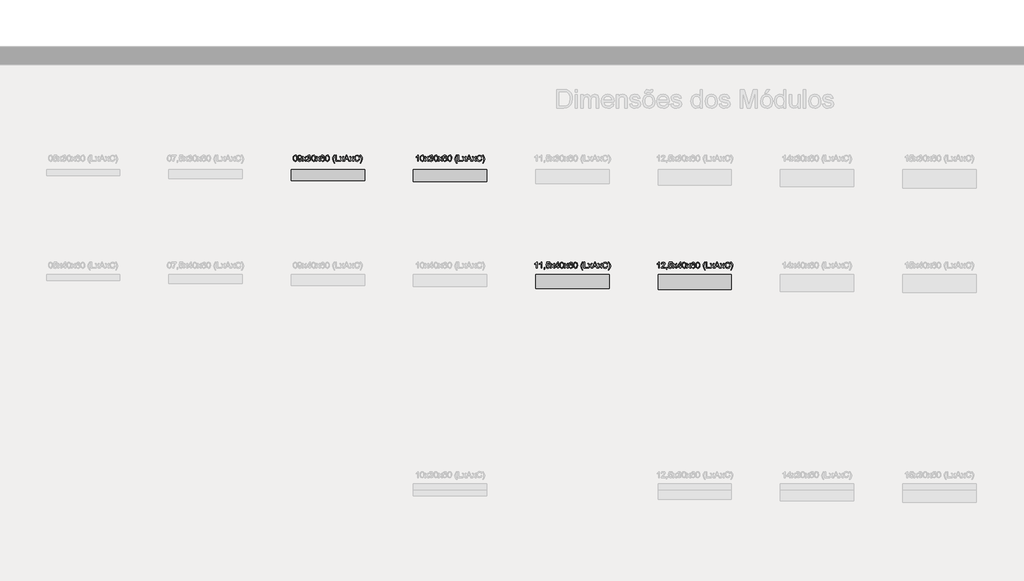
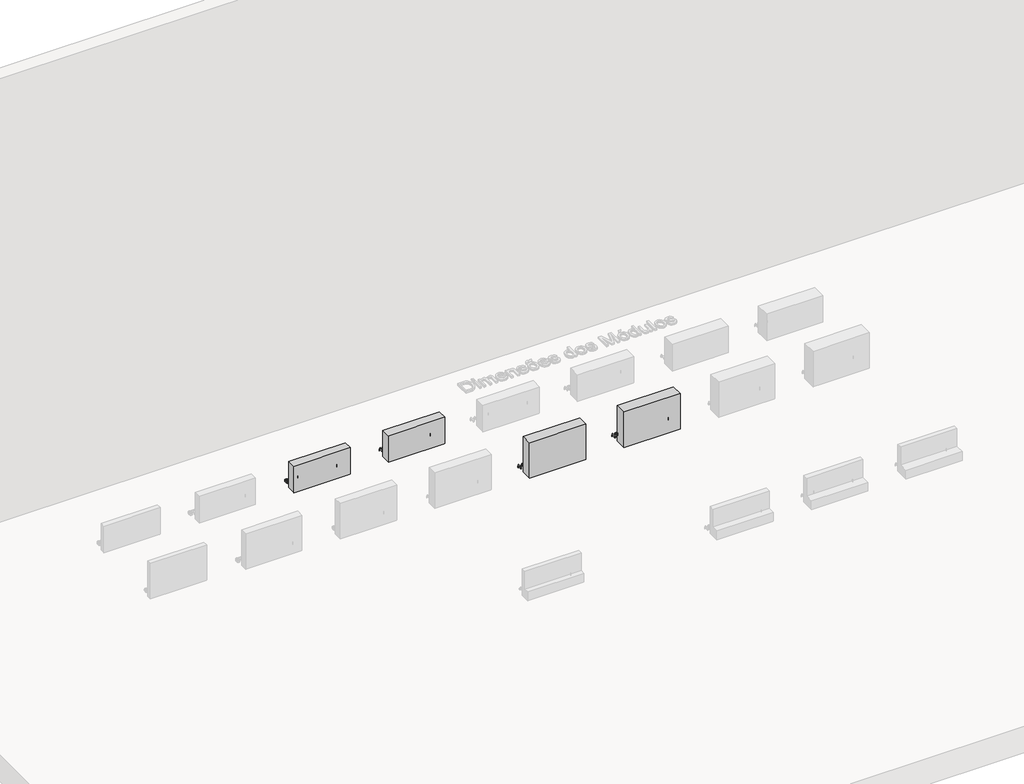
# One storey, part 19 of 26: 8 proxies.
"""IFC4 building model written with IfcOpenShell, lengths in millimetres."""

from ifc_helpers import new_model, si_unit, origin, origin_with_axes, place, context, project, spatial, polyline, outline, extrude, transform, mapped, element, save
from components import generic_models_1ec5af48, generic_models_086c547d, generic_models_9ac8ba65, generic_models_503ec5d7

model = new_model("IFC4")

# Units and contexts
model_context = context("Model", 3, world=origin())
ifc_project = project(units=[si_unit("LENGTHUNIT", "METRE", prefix="MILLI")], contexts=[model_context])

# Site, building, storey
site = spatial("IfcSite", under=ifc_project)
building = spatial("IfcBuilding", under=site)
storey = spatial("IfcBuildingStorey", under=building, Name="Catálogo Celucon", Elevation=0.0)

# Proxies
placement = place(None, origin())
element("IfcBuildingElementProxy", 1, Name="Dimensões", ObjectType="Dimensões", at=placement, inside=storey, context=model_context, shape_type="SweptSolid", body=[
    extrude(outline(polyline([(-11781.5709703, 1443.172917), (-11779.725429, 1457.6245481), (-11774.2439872, 1465.9570753), (-11765.0898569, 1468.6916648), (-11757.7567425, 1467.072984), (-11752.6922337, 1462.407014), (-11749.7491777, 1454.9757977), (-11748.6087435, 1443.172917), (-11750.4358908, 1428.7825997), (-11755.8989384, 1420.4316784), (-11765.0898569, 1417.6786948), (-11776.5677752, 1422.4611607), (-11780.3201715, 1430.9561691), (-11781.5709703, 1443.172917)]), holes=[polyline([(-11775.2924509, 1443.1851798), (-11772.349395, 1427.5931146), (-11765.0898569, 1423.9572142), (-11757.8303189, 1427.6053773), (-11754.8872629, 1443.1851798), (-11757.732217, 1458.5994354), (-11765.1634333, 1462.4131454), (-11772.2512931, 1459.0531565), (-11775.2924509, 1443.1851798)])]), origin_with_axes(), (0.0, 0.0, 1.0), 20.0),
    extrude(outline(polyline([(-11742.3302242, 1431.0205485), (-11736.0517048, 1431.8053634), (-11733.2312761, 1425.8150182), (-11727.8847245, 1423.9572142), (-11722.8018216, 1425.1528307), (-11719.3559936, 1428.3472726), (-11717.3019857, 1433.8041889), (-11716.3945435, 1441.0882524), (-11721.4529209, 1437.5565853), (-11728.3384456, 1435.729438), (-11738.8292138, 1440.1930729), (-11743.1150391, 1451.953034), (-11738.6207474, 1464.0931398), (-11727.357427, 1468.6916648), (-11718.4117631, 1466.0674399), (-11712.255871, 1458.5871726), (-11710.1528123, 1444.5340804), (-11712.2497397, 1429.2853717), (-11718.4853395, 1420.6462762), (-11728.1790301, 1417.6786948), (-11737.8298011, 1421.1797051), (-11742.3302242, 1431.0205485)]), holes=[polyline([(-11716.4313317, 1452.1001868), (-11719.1413957, 1459.629505), (-11726.3396201, 1462.4131454), (-11733.8934637, 1459.4149071), (-11736.8365197, 1451.6464657), (-11734.0528793, 1444.6873646), (-11726.5112984, 1442.0079574), (-11719.2701544, 1444.6873646), (-11716.4313317, 1452.1001868)])]), origin_with_axes(), (0.0, 0.0, 1.0), 20.0),
    extrude(outline(polyline([(-11707.0135526, 1418.4635097), (-11693.5981225, 1437.0047623), (-11706.2287377, 1455.3498111), (-11698.6748941, 1455.3498111), (-11692.5803157, 1446.5206432), (-11689.7353616, 1442.3513139), (-11687.2705522, 1445.7603537), (-11680.3298452, 1455.3498111), (-11672.7760016, 1455.3498111), (-11686.0442789, 1437.0047623), (-11673.2665109, 1418.4635097), (-11680.8203546, 1418.4635097), (-11688.5090883, 1429.6103342), (-11689.9193026, 1431.6459479), (-11699.459709, 1418.4635097), (-11707.0135526, 1418.4635097)])), origin_with_axes(), (0.0, 0.0, 1.0), 20.0),
    extrude(outline(polyline([(-11669.3424363, 1431.8053634), (-11663.0639169, 1432.5901783), (-11659.5996948, 1425.9805651), (-11653.1188403, 1423.9572142), (-11645.4914203, 1426.7408546), (-11642.6587289, 1433.6325106), (-11645.4668948, 1440.1256279), (-11652.6038055, 1442.6946705), (-11657.0061267, 1442.0079574), (-11656.3071509, 1448.2864768), (-11648.1769589, 1450.0155222), (-11645.0131737, 1455.5582776), (-11647.3063048, 1460.4695022), (-11653.2169422, 1462.4131454), (-11659.201156, 1460.4511081), (-11662.279102, 1454.5649962), (-11668.5576214, 1455.3498111), (-11663.4195362, 1465.1967858), (-11653.4376714, 1468.6916648), (-11645.8654337, 1466.9687508), (-11640.5679329, 1462.2598612), (-11638.7346543, 1455.9261595), (-11640.4759624, 1450.1381495), (-11645.6263104, 1445.9810829), (-11638.7837052, 1441.6891263), (-11636.3802095, 1433.522146), (-11641.1872009, 1422.2894825), (-11653.3395695, 1417.6786948), (-11664.3515039, 1421.6150321), (-11669.3424363, 1431.8053634)])), origin_with_axes(), (0.0, 0.0, 1.0), 20.0),
    extrude(outline(polyline([(-11630.8865051, 1443.172917), (-11629.0409637, 1457.6245481), (-11623.559522, 1465.9570753), (-11614.4053917, 1468.6916648), (-11607.0722773, 1467.072984), (-11602.0077685, 1462.407014), (-11599.0647125, 1454.9757977), (-11597.9242783, 1443.172917), (-11599.7514256, 1428.7825997), (-11605.2144732, 1420.4316784), (-11614.4053917, 1417.6786948), (-11625.8833099, 1422.4611607), (-11629.6357063, 1430.9561691), (-11630.8865051, 1443.172917)]), holes=[polyline([(-11624.6079857, 1443.1851798), (-11621.6649297, 1427.5931146), (-11614.4053917, 1423.9572142), (-11607.1458537, 1427.6053773), (-11604.2027977, 1443.1851798), (-11607.0477518, 1458.5994354), (-11614.4789681, 1462.4131454), (-11621.5668279, 1459.0531565), (-11624.6079857, 1443.1851798)])]), origin_with_axes(), (0.0, 0.0, 1.0), 20.0),
    extrude(outline(polyline([(-11594.7850186, 1418.4635097), (-11581.3695885, 1437.0047623), (-11594.0002037, 1455.3498111), (-11586.4463601, 1455.3498111), (-11580.3517817, 1446.5206432), (-11577.5068276, 1442.3513139), (-11575.0420182, 1445.7603537), (-11568.1013112, 1455.3498111), (-11560.5474676, 1455.3498111), (-11573.8157449, 1437.0047623), (-11561.0379769, 1418.4635097), (-11568.5918206, 1418.4635097), (-11576.2805543, 1429.6103342), (-11577.6907686, 1431.6459479), (-11587.231175, 1418.4635097), (-11594.7850186, 1418.4635097)])), origin_with_axes(), (0.0, 0.0, 1.0), 20.0),
    extrude(outline(polyline([(-11524.9364905, 1455.3498111), (-11531.2150099, 1454.5649962), (-11533.5939801, 1459.8011832), (-11539.8847622, 1462.4131454), (-11545.5501449, 1460.8925665), (-11549.8359702, 1455.1842642), (-11551.6201979, 1443.9945202), (-11546.0835738, 1449.0038467), (-11539.2225746, 1450.6409215), (-11528.5539968, 1446.1650239), (-11524.1516755, 1434.6012666), (-11526.2240775, 1425.9376456), (-11531.9262484, 1419.806279), (-11540.1545423, 1417.6786948), (-11552.9507044, 1423.319552), (-11556.661714, 1430.7875565), (-11557.8987172, 1441.9098555), (-11556.5252911, 1454.4147777), (-11552.4050128, 1462.9649684), (-11546.7794839, 1467.2599907), (-11539.4923547, 1468.6916648), (-11529.5718036, 1465.1477349), (-11524.9364905, 1455.3498111)]), holes=[polyline([(-11551.6201979, 1434.6993684), (-11550.167064, 1429.2608463), (-11546.304303, 1425.3122462), (-11540.6450517, 1423.9572142), (-11533.2444922, 1426.7653801), (-11530.4301949, 1434.3928001), (-11533.207704, 1441.6952577), (-11540.9025691, 1444.3624022), (-11548.4993323, 1441.6952577), (-11551.6201979, 1434.6993684)])]), origin_with_axes(), (0.0, 0.0, 1.0), 20.0),
    extrude(outline(polyline([(-11518.6579711, 1443.172917), (-11516.8124297, 1457.6245481), (-11511.330988, 1465.9570753), (-11502.1768577, 1468.6916648), (-11494.8437433, 1467.072984), (-11489.7792345, 1462.407014), (-11486.8361785, 1454.9757977), (-11485.6957443, 1443.172917), (-11487.5228916, 1428.7825997), (-11492.9859392, 1420.4316784), (-11502.1768577, 1417.6786948), (-11513.654776, 1422.4611607), (-11517.4071723, 1430.9561691), (-11518.6579711, 1443.172917)]), holes=[polyline([(-11512.3794517, 1443.1851798), (-11509.4363957, 1427.5931146), (-11502.1768577, 1423.9572142), (-11494.9173197, 1427.6053773), (-11491.9742637, 1443.1851798), (-11494.8192178, 1458.5994354), (-11502.2504341, 1462.4131454), (-11509.3382939, 1459.0531565), (-11512.3794517, 1443.1851798)])]), origin_with_axes(), (0.0, 0.0, 1.0), 20.0),
    extrude(outline(polyline([(-11446.4549982, 1404.3368411), (-11455.3700052, 1419.0643836), (-11459.0120369, 1436.5510411), (-11456.2897102, 1451.8181439), (-11446.4549982, 1468.6916648), (-11441.7461086, 1468.6916648), (-11447.6199578, 1458.7465882), (-11451.151625, 1449.1080799), (-11452.7335176, 1436.5142529), (-11449.9866653, 1420.4194156), (-11441.7461086, 1404.3368411), (-11446.4549982, 1404.3368411)])), origin_with_axes(), (0.0, 0.0, 1.0), 20.0),
    extrude(outline(polyline([(-11434.6827743, 1418.4635097), (-11434.6827743, 1468.6916648), (-11428.4042549, 1468.6916648), (-11428.4042549, 1424.7420291), (-11403.2901774, 1424.7420291), (-11403.2901774, 1418.4635097), (-11434.6827743, 1418.4635097)])), origin_with_axes(), (0.0, 0.0, 1.0), 20.0),
    extrude(outline(polyline([(-11366.7594953, 1418.4635097), (-11346.7099265, 1468.6916648), (-11341.3633749, 1468.6916648), (-11321.3138061, 1418.4635097), (-11327.9479448, 1418.4635097), (-11333.6991666, 1434.1598082), (-11354.3863975, 1434.1598082), (-11360.1253566, 1418.4635097), (-11366.7594953, 1418.4635097)]), holes=[polyline([(-11352.0810037, 1440.4383275), (-11335.9922977, 1440.4383275), (-11340.5172463, 1452.7868999), (-11344.0366507, 1462.4131454), (-11347.1636477, 1453.8660204), (-11352.0810037, 1440.4383275)])]), origin_with_axes(), (0.0, 0.0, 1.0), 20.0),
    extrude(outline(polyline([(-11400.9357326, 1418.4635097), (-11387.5203025, 1437.0047623), (-11400.1509177, 1455.3498111), (-11392.5970741, 1455.3498111), (-11386.5024957, 1446.5206432), (-11383.6575416, 1442.3513139), (-11381.1927322, 1445.7603537), (-11374.2520252, 1455.3498111), (-11366.6981816, 1455.3498111), (-11379.9664589, 1437.0047623), (-11367.1886909, 1418.4635097), (-11374.7425346, 1418.4635097), (-11382.4312683, 1429.6103342), (-11383.8414826, 1431.6459479), (-11393.381889, 1418.4635097), (-11400.9357326, 1418.4635097)])), origin_with_axes(), (0.0, 0.0, 1.0), 20.0),
    extrude(outline(polyline([(-11319.3149806, 1418.4635097), (-11305.8995505, 1437.0047623), (-11318.5301657, 1455.3498111), (-11310.9763221, 1455.3498111), (-11304.8817437, 1446.5206432), (-11302.0367896, 1442.3513139), (-11299.5719802, 1445.7603537), (-11292.6312733, 1455.3498111), (-11285.0774296, 1455.3498111), (-11298.3457069, 1437.0047623), (-11285.5679389, 1418.4635097), (-11293.1217826, 1418.4635097), (-11300.8105163, 1429.6103342), (-11302.2207306, 1431.6459479), (-11311.761137, 1418.4635097), (-11319.3149806, 1418.4635097)])), origin_with_axes(), (0.0, 0.0, 1.0), 20.0),
    extrude(outline(polyline([(-11243.972748, 1436.3180492), (-11237.6942286, 1434.6993684), (-11245.1377077, 1422.0380964), (-11258.2833576, 1417.6786948), (-11271.3492998, 1420.97737), (-11279.0135081, 1430.5300391), (-11281.6438643, 1443.957732), (-11278.6701515, 1457.606154), (-11270.214997, 1466.453716), (-11258.1484676, 1469.4764797), (-11245.5730347, 1465.5646678), (-11238.4790436, 1454.5527334), (-11244.7575629, 1453.05668), (-11249.9079109, 1460.7760705), (-11258.3937222, 1463.1979603), (-11268.2161715, 1460.5124218), (-11273.7650583, 1453.3019346), (-11275.3653449, 1443.9699947), (-11273.4707527, 1433.154264), (-11267.572378, 1426.2442139), (-11258.908757, 1423.9572142), (-11249.3009056, 1427.0719484), (-11243.972748, 1436.3180492)])), origin_with_axes(), (0.0, 0.0, 1.0), 20.0),
    extrude(outline(polyline([(-11228.2764496, 1404.3368411), (-11232.9853391, 1404.3368411), (-11224.7447824, 1420.4194156), (-11221.9979302, 1436.5142529), (-11223.5798228, 1448.9977153), (-11227.0747017, 1458.6484863), (-11232.9853391, 1468.6916648), (-11228.2764496, 1468.6916648), (-11218.4417376, 1451.8181439), (-11215.7194108, 1436.5510411), (-11219.3798366, 1419.0643836), (-11228.2764496, 1404.3368411)])), origin_with_axes(), (0.0, 0.0, 1.0), 20.0),
])
element("IfcBuildingElementProxy", 2, Name="Dimensões", ObjectType="Dimensões", at=placement, inside=storey, context=model_context, shape_type="SweptSolid", body=[
    extrude(outline(polyline([(-10758.0265226, 1418.4635097), (-10764.305042, 1418.4635097), (-10764.305042, 1457.606154), (-10770.2524676, 1453.3693797), (-10776.8620808, 1450.1994632), (-10776.8620808, 1456.134626), (-10767.6588995, 1462.0084752), (-10762.0732246, 1468.6916648), (-10758.0265226, 1468.6916648), (-10758.0265226, 1418.4635097)])), origin_with_axes(), (0.0, 0.0, 1.0), 20.0),
    extrude(outline(polyline([(-10743.1150391, 1443.172917), (-10741.2694977, 1457.6245481), (-10735.788056, 1465.9570753), (-10726.6339257, 1468.6916648), (-10719.3008113, 1467.072984), (-10714.2363025, 1462.407014), (-10711.2932465, 1454.9757977), (-10710.1528123, 1443.172917), (-10711.9799596, 1428.7825997), (-10717.4430072, 1420.4316784), (-10726.6339257, 1417.6786948), (-10738.1118439, 1422.4611607), (-10741.8642403, 1430.9561691), (-10743.1150391, 1443.172917)]), holes=[polyline([(-10736.8365197, 1443.1851798), (-10733.8934637, 1427.5931146), (-10726.6339257, 1423.9572142), (-10719.3743877, 1427.6053773), (-10716.4313317, 1443.1851798), (-10719.2762858, 1458.5994354), (-10726.7075021, 1462.4131454), (-10733.7953619, 1459.0531565), (-10736.8365197, 1443.1851798)])]), origin_with_axes(), (0.0, 0.0, 1.0), 20.0),
    extrude(outline(polyline([(-10707.0135526, 1418.4635097), (-10693.5981225, 1437.0047623), (-10706.2287377, 1455.3498111), (-10698.6748941, 1455.3498111), (-10692.5803157, 1446.5206432), (-10689.7353616, 1442.3513139), (-10687.2705522, 1445.7603537), (-10680.3298452, 1455.3498111), (-10672.7760016, 1455.3498111), (-10686.0442789, 1437.0047623), (-10673.2665109, 1418.4635097), (-10680.8203546, 1418.4635097), (-10688.5090883, 1429.6103342), (-10689.9193026, 1431.6459479), (-10699.459709, 1418.4635097), (-10707.0135526, 1418.4635097)])), origin_with_axes(), (0.0, 0.0, 1.0), 20.0),
    extrude(outline(polyline([(-10669.3424363, 1431.8053634), (-10663.0639169, 1432.5901783), (-10659.5996948, 1425.9805651), (-10653.1188403, 1423.9572142), (-10645.4914203, 1426.7408546), (-10642.6587289, 1433.6325106), (-10645.4668948, 1440.1256279), (-10652.6038055, 1442.6946705), (-10657.0061267, 1442.0079574), (-10656.3071509, 1448.2864768), (-10648.1769589, 1450.0155222), (-10645.0131737, 1455.5582776), (-10647.3063048, 1460.4695022), (-10653.2169422, 1462.4131454), (-10659.201156, 1460.4511081), (-10662.279102, 1454.5649962), (-10668.5576214, 1455.3498111), (-10663.4195362, 1465.1967858), (-10653.4376714, 1468.6916648), (-10645.8654337, 1466.9687508), (-10640.5679329, 1462.2598612), (-10638.7346543, 1455.9261595), (-10640.4759624, 1450.1381495), (-10645.6263104, 1445.9810829), (-10638.7837052, 1441.6891263), (-10636.3802095, 1433.522146), (-10641.1872009, 1422.2894825), (-10653.3395695, 1417.6786948), (-10664.3515039, 1421.6150321), (-10669.3424363, 1431.8053634)])), origin_with_axes(), (0.0, 0.0, 1.0), 20.0),
    extrude(outline(polyline([(-10630.8865051, 1443.172917), (-10629.0409637, 1457.6245481), (-10623.559522, 1465.9570753), (-10614.4053917, 1468.6916648), (-10607.0722773, 1467.072984), (-10602.0077685, 1462.407014), (-10599.0647125, 1454.9757977), (-10597.9242783, 1443.172917), (-10599.7514256, 1428.7825997), (-10605.2144732, 1420.4316784), (-10614.4053917, 1417.6786948), (-10625.8833099, 1422.4611607), (-10629.6357063, 1430.9561691), (-10630.8865051, 1443.172917)]), holes=[polyline([(-10624.6079857, 1443.1851798), (-10621.6649297, 1427.5931146), (-10614.4053917, 1423.9572142), (-10607.1458537, 1427.6053773), (-10604.2027977, 1443.1851798), (-10607.0477518, 1458.5994354), (-10614.4789681, 1462.4131454), (-10621.5668279, 1459.0531565), (-10624.6079857, 1443.1851798)])]), origin_with_axes(), (0.0, 0.0, 1.0), 20.0),
    extrude(outline(polyline([(-10594.7850186, 1418.4635097), (-10581.3695885, 1437.0047623), (-10594.0002037, 1455.3498111), (-10586.4463601, 1455.3498111), (-10580.3517817, 1446.5206432), (-10577.5068276, 1442.3513139), (-10575.0420182, 1445.7603537), (-10568.1013112, 1455.3498111), (-10560.5474676, 1455.3498111), (-10573.8157449, 1437.0047623), (-10561.0379769, 1418.4635097), (-10568.5918206, 1418.4635097), (-10576.2805543, 1429.6103342), (-10577.6907686, 1431.6459479), (-10587.231175, 1418.4635097), (-10594.7850186, 1418.4635097)])), origin_with_axes(), (0.0, 0.0, 1.0), 20.0),
    extrude(outline(polyline([(-10524.9364905, 1455.3498111), (-10531.2150099, 1454.5649962), (-10533.5939801, 1459.8011832), (-10539.8847622, 1462.4131454), (-10545.5501449, 1460.8925665), (-10549.8359702, 1455.1842642), (-10551.6201979, 1443.9945202), (-10546.0835738, 1449.0038467), (-10539.2225746, 1450.6409215), (-10528.5539968, 1446.1650239), (-10524.1516755, 1434.6012666), (-10526.2240775, 1425.9376456), (-10531.9262484, 1419.806279), (-10540.1545423, 1417.6786948), (-10552.9507044, 1423.319552), (-10556.661714, 1430.7875565), (-10557.8987172, 1441.9098555), (-10556.5252911, 1454.4147777), (-10552.4050128, 1462.9649684), (-10546.7794839, 1467.2599907), (-10539.4923547, 1468.6916648), (-10529.5718036, 1465.1477349), (-10524.9364905, 1455.3498111)]), holes=[polyline([(-10551.6201979, 1434.6993684), (-10550.167064, 1429.2608463), (-10546.304303, 1425.3122462), (-10540.6450517, 1423.9572142), (-10533.2444922, 1426.7653801), (-10530.4301949, 1434.3928001), (-10533.207704, 1441.6952577), (-10540.9025691, 1444.3624022), (-10548.4993323, 1441.6952577), (-10551.6201979, 1434.6993684)])]), origin_with_axes(), (0.0, 0.0, 1.0), 20.0),
    extrude(outline(polyline([(-10518.6579711, 1443.172917), (-10516.8124297, 1457.6245481), (-10511.330988, 1465.9570753), (-10502.1768577, 1468.6916648), (-10494.8437433, 1467.072984), (-10489.7792345, 1462.407014), (-10486.8361785, 1454.9757977), (-10485.6957443, 1443.172917), (-10487.5228916, 1428.7825997), (-10492.9859392, 1420.4316784), (-10502.1768577, 1417.6786948), (-10513.654776, 1422.4611607), (-10517.4071723, 1430.9561691), (-10518.6579711, 1443.172917)]), holes=[polyline([(-10512.3794517, 1443.1851798), (-10509.4363957, 1427.5931146), (-10502.1768577, 1423.9572142), (-10494.9173197, 1427.6053773), (-10491.9742637, 1443.1851798), (-10494.8192178, 1458.5994354), (-10502.2504341, 1462.4131454), (-10509.3382939, 1459.0531565), (-10512.3794517, 1443.1851798)])]), origin_with_axes(), (0.0, 0.0, 1.0), 20.0),
    extrude(outline(polyline([(-10446.4549982, 1404.3368411), (-10455.3700052, 1419.0643836), (-10459.0120369, 1436.5510411), (-10456.2897102, 1451.8181439), (-10446.4549982, 1468.6916648), (-10441.7461086, 1468.6916648), (-10447.6199578, 1458.7465882), (-10451.151625, 1449.1080799), (-10452.7335176, 1436.5142529), (-10449.9866653, 1420.4194156), (-10441.7461086, 1404.3368411), (-10446.4549982, 1404.3368411)])), origin_with_axes(), (0.0, 0.0, 1.0), 20.0),
    extrude(outline(polyline([(-10434.6827743, 1418.4635097), (-10434.6827743, 1468.6916648), (-10428.4042549, 1468.6916648), (-10428.4042549, 1424.7420291), (-10403.2901774, 1424.7420291), (-10403.2901774, 1418.4635097), (-10434.6827743, 1418.4635097)])), origin_with_axes(), (0.0, 0.0, 1.0), 20.0),
    extrude(outline(polyline([(-10366.7594953, 1418.4635097), (-10346.7099265, 1468.6916648), (-10341.3633749, 1468.6916648), (-10321.3138061, 1418.4635097), (-10327.9479448, 1418.4635097), (-10333.6991666, 1434.1598082), (-10354.3863975, 1434.1598082), (-10360.1253566, 1418.4635097), (-10366.7594953, 1418.4635097)]), holes=[polyline([(-10352.0810037, 1440.4383275), (-10335.9922977, 1440.4383275), (-10340.5172463, 1452.7868999), (-10344.0366507, 1462.4131454), (-10347.1636477, 1453.8660204), (-10352.0810037, 1440.4383275)])]), origin_with_axes(), (0.0, 0.0, 1.0), 20.0),
    extrude(outline(polyline([(-10400.9357326, 1418.4635097), (-10387.5203025, 1437.0047623), (-10400.1509177, 1455.3498111), (-10392.5970741, 1455.3498111), (-10386.5024957, 1446.5206432), (-10383.6575416, 1442.3513139), (-10381.1927322, 1445.7603537), (-10374.2520252, 1455.3498111), (-10366.6981816, 1455.3498111), (-10379.9664589, 1437.0047623), (-10367.1886909, 1418.4635097), (-10374.7425346, 1418.4635097), (-10382.4312683, 1429.6103342), (-10383.8414826, 1431.6459479), (-10393.381889, 1418.4635097), (-10400.9357326, 1418.4635097)])), origin_with_axes(), (0.0, 0.0, 1.0), 20.0),
    extrude(outline(polyline([(-10319.3149806, 1418.4635097), (-10305.8995505, 1437.0047623), (-10318.5301657, 1455.3498111), (-10310.9763221, 1455.3498111), (-10304.8817437, 1446.5206432), (-10302.0367896, 1442.3513139), (-10299.5719802, 1445.7603537), (-10292.6312733, 1455.3498111), (-10285.0774296, 1455.3498111), (-10298.3457069, 1437.0047623), (-10285.5679389, 1418.4635097), (-10293.1217826, 1418.4635097), (-10300.8105163, 1429.6103342), (-10302.2207306, 1431.6459479), (-10311.761137, 1418.4635097), (-10319.3149806, 1418.4635097)])), origin_with_axes(), (0.0, 0.0, 1.0), 20.0),
    extrude(outline(polyline([(-10243.972748, 1436.3180492), (-10237.6942286, 1434.6993684), (-10245.1377077, 1422.0380964), (-10258.2833576, 1417.6786948), (-10271.3492998, 1420.97737), (-10279.0135081, 1430.5300391), (-10281.6438643, 1443.957732), (-10278.6701515, 1457.606154), (-10270.214997, 1466.453716), (-10258.1484676, 1469.4764797), (-10245.5730347, 1465.5646678), (-10238.4790436, 1454.5527334), (-10244.7575629, 1453.05668), (-10249.9079109, 1460.7760705), (-10258.3937222, 1463.1979603), (-10268.2161715, 1460.5124218), (-10273.7650583, 1453.3019346), (-10275.3653449, 1443.9699947), (-10273.4707527, 1433.154264), (-10267.572378, 1426.2442139), (-10258.908757, 1423.9572142), (-10249.3009056, 1427.0719484), (-10243.972748, 1436.3180492)])), origin_with_axes(), (0.0, 0.0, 1.0), 20.0),
    extrude(outline(polyline([(-10228.2764496, 1404.3368411), (-10232.9853391, 1404.3368411), (-10224.7447824, 1420.4194156), (-10221.9979302, 1436.5142529), (-10223.5798228, 1448.9977153), (-10227.0747017, 1458.6484863), (-10232.9853391, 1468.6916648), (-10228.2764496, 1468.6916648), (-10218.4417376, 1451.8181439), (-10215.7194108, 1436.5510411), (-10219.3798366, 1419.0643836), (-10228.2764496, 1404.3368411)])), origin_with_axes(), (0.0, 0.0, 1.0), 20.0),
])
element("IfcBuildingElementProxy", 3, Name="Dimensões", ObjectType="Dimensões", at=placement, inside=storey, context=model_context, shape_type="SweptSolid", body=[
    extrude(outline(polyline([(-9787.0646748, 543.1811307), (-9793.3431942, 543.1811307), (-9793.3431942, 582.323775), (-9799.2906197, 578.0870007), (-9805.9002329, 574.9170841), (-9805.9002329, 580.852247), (-9796.6970517, 586.7260962), (-9791.1113767, 593.4092858), (-9787.0646748, 593.4092858), (-9787.0646748, 543.1811307)])), origin_with_axes(), (0.0, 0.0, 1.0), 20.0),
    extrude(outline(polyline([(-9748.6087435, 543.1811307), (-9754.8872629, 543.1811307), (-9754.8872629, 582.323775), (-9760.8346885, 578.0870007), (-9767.4443017, 574.9170841), (-9767.4443017, 580.852247), (-9758.2411204, 586.7260962), (-9752.6554455, 593.4092858), (-9748.6087435, 593.4092858), (-9748.6087435, 543.1811307)])), origin_with_axes(), (0.0, 0.0, 1.0), 20.0),
    extrude(outline(polyline([(-9730.5580003, 543.1811307), (-9730.5580003, 549.4596501), (-9724.2794809, 549.4596501), (-9724.2794809, 543.1811307), (-9725.4076524, 536.7615899), (-9728.9883705, 532.9785367), (-9730.5580003, 535.3329815), (-9728.2526065, 538.0430455), (-9727.4310034, 543.1811307), (-9730.5580003, 543.1811307)])), origin_with_axes(), (0.0, 0.0, 1.0), 20.0),
    extrude(outline(polyline([(-9714.0768869, 556.5229844), (-9707.7983675, 557.3077993), (-9704.6345824, 550.8392076), (-9698.0740201, 548.6748351), (-9690.2013454, 551.6853361), (-9687.3931795, 559.6745068), (-9690.0235358, 567.1302486), (-9697.9759183, 569.8648381), (-9703.4880168, 568.7734548), (-9707.0135526, 565.9407635), (-9713.292072, 566.7255784), (-9707.7983675, 592.6244708), (-9683.4691049, 592.6244708), (-9683.4691049, 586.3459515), (-9702.721596, 586.3459515), (-9705.4071346, 572.5135884), (-9696.2223474, 576.1433575), (-9685.4863245, 571.6429344), (-9681.1146602, 560.0669143), (-9685.0509975, 548.4173178), (-9690.7041175, 543.9015663), (-9698.0985456, 542.3963158), (-9709.177925, 546.2652081), (-9714.0768869, 556.5229844)])), origin_with_axes(), (0.0, 0.0, 1.0), 20.0),
    extrude(outline(polyline([(-9677.9754005, 543.1811307), (-9664.5599704, 561.7223832), (-9677.1905855, 580.0674321), (-9669.6367419, 580.0674321), (-9663.5421635, 571.2382642), (-9660.6972094, 567.0689349), (-9658.2324001, 570.4779747), (-9651.2916931, 580.0674321), (-9643.7378494, 580.0674321), (-9657.0061267, 561.7223832), (-9644.2283588, 543.1811307), (-9651.7822024, 543.1811307), (-9659.4709361, 554.3279551), (-9660.8811504, 556.3635688), (-9670.4215568, 543.1811307), (-9677.9754005, 543.1811307)])), origin_with_axes(), (0.0, 0.0, 1.0), 20.0),
    extrude(outline(polyline([(-9619.8990962, 543.1811307), (-9619.8990962, 554.9533545), (-9642.6587289, 554.9533545), (-9642.6587289, 561.2318739), (-9618.3294663, 592.6244708), (-9613.6205768, 592.6244708), (-9613.6205768, 561.2318739), (-9607.3420574, 561.2318739), (-9607.3420574, 554.9533545), (-9613.6205768, 554.9533545), (-9613.6205768, 543.1811307), (-9619.8990962, 543.1811307)]), holes=[polyline([(-9619.8990962, 561.2318739), (-9619.8990962, 580.6315178), (-9634.933207, 561.2318739), (-9619.8990962, 561.2318739)])]), origin_with_axes(), (0.0, 0.0, 1.0), 20.0),
    extrude(outline(polyline([(-9601.8483529, 567.890538), (-9600.0028116, 582.3421691), (-9594.5213699, 590.6746963), (-9585.3672395, 593.4092858), (-9578.0341251, 591.790605), (-9572.9696163, 587.124635), (-9570.0265603, 579.6934187), (-9568.8861262, 567.890538), (-9570.7132734, 553.5002207), (-9576.176321, 545.1492994), (-9585.3672395, 542.3963158), (-9596.8451578, 547.1787817), (-9600.5975541, 555.6737901), (-9601.8483529, 567.890538)]), holes=[polyline([(-9595.5698335, 567.9028008), (-9592.6267776, 552.3107355), (-9585.3672395, 548.6748351), (-9578.1077015, 552.3229983), (-9575.1646455, 567.9028008), (-9578.0095996, 583.3170564), (-9585.4408159, 587.1307664), (-9592.5286757, 583.7707775), (-9595.5698335, 567.9028008)])]), origin_with_axes(), (0.0, 0.0, 1.0), 20.0),
    extrude(outline(polyline([(-9565.7468665, 543.1811307), (-9552.3314364, 561.7223832), (-9564.9620515, 580.0674321), (-9557.4082079, 580.0674321), (-9551.3136295, 571.2382642), (-9548.4686754, 567.0689349), (-9546.0038661, 570.4779747), (-9539.0631591, 580.0674321), (-9531.5093155, 580.0674321), (-9544.7775927, 561.7223832), (-9531.9998248, 543.1811307), (-9539.5536684, 543.1811307), (-9547.2424021, 554.3279551), (-9548.6526164, 556.3635688), (-9558.1930228, 543.1811307), (-9565.7468665, 543.1811307)])), origin_with_axes(), (0.0, 0.0, 1.0), 20.0),
    extrude(outline(polyline([(-9495.8983383, 580.0674321), (-9502.1768577, 579.2826171), (-9504.5558279, 584.5188042), (-9510.8466101, 587.1307664), (-9516.5119928, 585.6101875), (-9520.797818, 579.9018852), (-9522.5820457, 568.7121412), (-9517.0454217, 573.7214677), (-9510.1844225, 575.3585425), (-9499.5158446, 570.8826449), (-9495.1135234, 559.3188875), (-9497.1859253, 550.6552666), (-9502.8880962, 544.5239), (-9511.1163902, 542.3963158), (-9523.9125523, 548.037173), (-9527.6235619, 555.5051775), (-9528.8605651, 566.6274765), (-9527.487139, 579.1323987), (-9523.3668606, 587.6825894), (-9517.7413318, 591.9776117), (-9510.4542026, 593.4092858), (-9500.5336515, 589.8653559), (-9495.8983383, 580.0674321)]), holes=[polyline([(-9522.5820457, 559.4169894), (-9521.1289118, 553.9784672), (-9517.2661509, 550.0298672), (-9511.6068995, 548.6748351), (-9504.20634, 551.483001), (-9501.3920428, 559.1104211), (-9504.1695518, 566.4128787), (-9511.8644169, 569.0800231), (-9519.4611801, 566.4128787), (-9522.5820457, 559.4169894)])]), origin_with_axes(), (0.0, 0.0, 1.0), 20.0),
    extrude(outline(polyline([(-9489.6198189, 567.890538), (-9487.7742776, 582.3421691), (-9482.2928359, 590.6746963), (-9473.1387056, 593.4092858), (-9465.8055911, 591.790605), (-9460.7410823, 587.124635), (-9457.7980264, 579.6934187), (-9456.6575922, 567.890538), (-9458.4847394, 553.5002207), (-9463.947787, 545.1492994), (-9473.1387056, 542.3963158), (-9484.6166238, 547.1787817), (-9488.3690202, 555.6737901), (-9489.6198189, 567.890538)]), holes=[polyline([(-9483.3412996, 567.9028008), (-9480.3982436, 552.3107355), (-9473.1387056, 548.6748351), (-9465.8791675, 552.3229983), (-9462.9361116, 567.9028008), (-9465.7810656, 583.3170564), (-9473.212282, 587.1307664), (-9480.3001417, 583.7707775), (-9483.3412996, 567.9028008)])]), origin_with_axes(), (0.0, 0.0, 1.0), 20.0),
    extrude(outline(polyline([(-9417.416846, 529.0544621), (-9426.331853, 543.7820046), (-9429.9738848, 561.2686621), (-9427.251558, 576.5357649), (-9417.416846, 593.4092858), (-9412.7079565, 593.4092858), (-9418.5818057, 583.4642092), (-9422.1134728, 573.8257009), (-9423.6953654, 561.2318739), (-9420.9485132, 545.1370366), (-9412.7079565, 529.0544621), (-9417.416846, 529.0544621)])), origin_with_axes(), (0.0, 0.0, 1.0), 20.0),
    extrude(outline(polyline([(-9405.6446222, 543.1811307), (-9405.6446222, 593.4092858), (-9399.3661028, 593.4092858), (-9399.3661028, 549.4596501), (-9374.2520252, 549.4596501), (-9374.2520252, 543.1811307), (-9405.6446222, 543.1811307)])), origin_with_axes(), (0.0, 0.0, 1.0), 20.0),
    extrude(outline(polyline([(-9337.7213431, 543.1811307), (-9317.6717744, 593.4092858), (-9312.3252227, 593.4092858), (-9292.275654, 543.1811307), (-9298.9097926, 543.1811307), (-9304.6610145, 558.8774291), (-9325.3482454, 558.8774291), (-9331.0872045, 543.1811307), (-9337.7213431, 543.1811307)]), holes=[polyline([(-9323.0428515, 565.1559485), (-9306.9541456, 565.1559485), (-9311.4790941, 577.5045208), (-9314.9984986, 587.1307664), (-9318.1254955, 578.5836414), (-9323.0428515, 565.1559485)])]), origin_with_axes(), (0.0, 0.0, 1.0), 20.0),
    extrude(outline(polyline([(-9371.8975805, 543.1811307), (-9358.4821504, 561.7223832), (-9371.1127656, 580.0674321), (-9363.5589219, 580.0674321), (-9357.4643435, 571.2382642), (-9354.6193894, 567.0689349), (-9352.1545801, 570.4779747), (-9345.2138731, 580.0674321), (-9337.6600295, 580.0674321), (-9350.9283068, 561.7223832), (-9338.1505388, 543.1811307), (-9345.7043824, 543.1811307), (-9353.3931161, 554.3279551), (-9354.8033304, 556.3635688), (-9364.3437368, 543.1811307), (-9371.8975805, 543.1811307)])), origin_with_axes(), (0.0, 0.0, 1.0), 20.0),
    extrude(outline(polyline([(-9290.2768285, 543.1811307), (-9276.8613984, 561.7223832), (-9289.4920136, 580.0674321), (-9281.9381699, 580.0674321), (-9275.8435915, 571.2382642), (-9272.9986374, 567.0689349), (-9270.5338281, 570.4779747), (-9263.5931211, 580.0674321), (-9256.0392775, 580.0674321), (-9269.3075548, 561.7223832), (-9256.5297868, 543.1811307), (-9264.0836304, 543.1811307), (-9271.7723641, 554.3279551), (-9273.1825784, 556.3635688), (-9282.7229848, 543.1811307), (-9290.2768285, 543.1811307)])), origin_with_axes(), (0.0, 0.0, 1.0), 20.0),
    extrude(outline(polyline([(-9214.9345959, 561.0356702), (-9208.6560765, 559.4169894), (-9216.0995555, 546.7557174), (-9229.2452055, 542.3963158), (-9242.3111477, 545.694991), (-9249.9753559, 555.2476601), (-9252.6057122, 568.675353), (-9249.6319994, 582.323775), (-9241.1768449, 591.171337), (-9229.1103154, 594.1941007), (-9216.5348825, 590.2822888), (-9209.4408914, 579.2703544), (-9215.7194108, 577.774301), (-9220.8697587, 585.4936915), (-9229.3555701, 587.9155813), (-9239.1780194, 585.2300427), (-9244.7269061, 578.0195556), (-9246.3271928, 568.6876157), (-9244.4326005, 557.871885), (-9238.5342259, 550.9618349), (-9229.8706049, 548.6748351), (-9220.2627534, 551.7895694), (-9214.9345959, 561.0356702)])), origin_with_axes(), (0.0, 0.0, 1.0), 20.0),
    extrude(outline(polyline([(-9199.2382974, 529.0544621), (-9203.9471869, 529.0544621), (-9195.7066303, 545.1370366), (-9192.959778, 561.2318739), (-9194.5416706, 573.7153363), (-9198.0365496, 583.3661073), (-9203.9471869, 593.4092858), (-9199.2382974, 593.4092858), (-9189.4035854, 576.5357649), (-9186.6812586, 561.2686621), (-9190.3416845, 543.7820046), (-9199.2382974, 529.0544621)])), origin_with_axes(), (0.0, 0.0, 1.0), 20.0),
])
element("IfcBuildingElementProxy", 4, Name="Dimensões", ObjectType="Dimensões", at=placement, inside=storey, context=model_context, shape_type="SweptSolid", body=[
    extrude(outline(polyline([(-8787.0646748, 543.1811307), (-8793.3431942, 543.1811307), (-8793.3431942, 582.323775), (-8799.2906197, 578.0870007), (-8805.9002329, 574.9170841), (-8805.9002329, 580.852247), (-8796.6970517, 586.7260962), (-8791.1113767, 593.4092858), (-8787.0646748, 593.4092858), (-8787.0646748, 543.1811307)])), origin_with_axes(), (0.0, 0.0, 1.0), 20.0),
    extrude(outline(polyline([(-8739.9757794, 549.4596501), (-8739.9757794, 543.1811307), (-8772.9380062, 543.1811307), (-8772.2635558, 547.5098755), (-8768.4498458, 554.174671), (-8760.5894338, 561.4526031), (-8749.7491777, 571.9127145), (-8747.0391137, 579.0250998), (-8749.5958936, 584.782453), (-8756.2729518, 587.1307664), (-8763.2320528, 584.8376353), (-8765.8746718, 578.4978022), (-8772.1531912, 579.2826171), (-8767.3400685, 589.7917795), (-8756.1380617, 593.4092858), (-8744.8992668, 589.3871093), (-8740.7605943, 579.4052445), (-8741.876503, 573.4516875), (-8745.5859798, 567.2957955), (-8754.5806946, 558.6934882), (-8761.8034444, 552.6540921), (-8764.6361358, 549.4596501), (-8739.9757794, 549.4596501)])), origin_with_axes(), (0.0, 0.0, 1.0), 20.0),
    extrude(outline(polyline([(-8730.5580003, 543.1811307), (-8730.5580003, 549.4596501), (-8724.2794809, 549.4596501), (-8724.2794809, 543.1811307), (-8725.4076524, 536.7615899), (-8728.9883705, 532.9785367), (-8730.5580003, 535.3329815), (-8728.2526065, 538.0430455), (-8727.4310034, 543.1811307), (-8730.5580003, 543.1811307)])), origin_with_axes(), (0.0, 0.0, 1.0), 20.0),
    extrude(outline(polyline([(-8714.0768869, 556.5229844), (-8707.7983675, 557.3077993), (-8704.6345824, 550.8392076), (-8698.0740201, 548.6748351), (-8690.2013454, 551.6853361), (-8687.3931795, 559.6745068), (-8690.0235358, 567.1302486), (-8697.9759183, 569.8648381), (-8703.4880168, 568.7734548), (-8707.0135526, 565.9407635), (-8713.292072, 566.7255784), (-8707.7983675, 592.6244708), (-8683.4691049, 592.6244708), (-8683.4691049, 586.3459515), (-8702.721596, 586.3459515), (-8705.4071346, 572.5135884), (-8696.2223474, 576.1433575), (-8685.4863245, 571.6429344), (-8681.1146602, 560.0669143), (-8685.0509975, 548.4173178), (-8690.7041175, 543.9015663), (-8698.0985456, 542.3963158), (-8709.177925, 546.2652081), (-8714.0768869, 556.5229844)])), origin_with_axes(), (0.0, 0.0, 1.0), 20.0),
    extrude(outline(polyline([(-8677.9754005, 543.1811307), (-8664.5599704, 561.7223832), (-8677.1905855, 580.0674321), (-8669.6367419, 580.0674321), (-8663.5421635, 571.2382642), (-8660.6972094, 567.0689349), (-8658.2324001, 570.4779747), (-8651.2916931, 580.0674321), (-8643.7378494, 580.0674321), (-8657.0061267, 561.7223832), (-8644.2283588, 543.1811307), (-8651.7822024, 543.1811307), (-8659.4709361, 554.3279551), (-8660.8811504, 556.3635688), (-8670.4215568, 543.1811307), (-8677.9754005, 543.1811307)])), origin_with_axes(), (0.0, 0.0, 1.0), 20.0),
    extrude(outline(polyline([(-8619.8990962, 543.1811307), (-8619.8990962, 554.9533545), (-8642.6587289, 554.9533545), (-8642.6587289, 561.2318739), (-8618.3294663, 592.6244708), (-8613.6205768, 592.6244708), (-8613.6205768, 561.2318739), (-8607.3420574, 561.2318739), (-8607.3420574, 554.9533545), (-8613.6205768, 554.9533545), (-8613.6205768, 543.1811307), (-8619.8990962, 543.1811307)]), holes=[polyline([(-8619.8990962, 561.2318739), (-8619.8990962, 580.6315178), (-8634.933207, 561.2318739), (-8619.8990962, 561.2318739)])]), origin_with_axes(), (0.0, 0.0, 1.0), 20.0),
    extrude(outline(polyline([(-8601.8483529, 567.890538), (-8600.0028116, 582.3421691), (-8594.5213699, 590.6746963), (-8585.3672395, 593.4092858), (-8578.0341251, 591.790605), (-8572.9696163, 587.124635), (-8570.0265603, 579.6934187), (-8568.8861262, 567.890538), (-8570.7132734, 553.5002207), (-8576.176321, 545.1492994), (-8585.3672395, 542.3963158), (-8596.8451578, 547.1787817), (-8600.5975541, 555.6737901), (-8601.8483529, 567.890538)]), holes=[polyline([(-8595.5698335, 567.9028008), (-8592.6267776, 552.3107355), (-8585.3672395, 548.6748351), (-8578.1077015, 552.3229983), (-8575.1646455, 567.9028008), (-8578.0095996, 583.3170564), (-8585.4408159, 587.1307664), (-8592.5286757, 583.7707775), (-8595.5698335, 567.9028008)])]), origin_with_axes(), (0.0, 0.0, 1.0), 20.0),
    extrude(outline(polyline([(-8565.7468665, 543.1811307), (-8552.3314364, 561.7223832), (-8564.9620515, 580.0674321), (-8557.4082079, 580.0674321), (-8551.3136295, 571.2382642), (-8548.4686754, 567.0689349), (-8546.0038661, 570.4779747), (-8539.0631591, 580.0674321), (-8531.5093155, 580.0674321), (-8544.7775927, 561.7223832), (-8531.9998248, 543.1811307), (-8539.5536684, 543.1811307), (-8547.2424021, 554.3279551), (-8548.6526164, 556.3635688), (-8558.1930228, 543.1811307), (-8565.7468665, 543.1811307)])), origin_with_axes(), (0.0, 0.0, 1.0), 20.0),
    extrude(outline(polyline([(-8495.8983383, 580.0674321), (-8502.1768577, 579.2826171), (-8504.5558279, 584.5188042), (-8510.8466101, 587.1307664), (-8516.5119928, 585.6101875), (-8520.797818, 579.9018852), (-8522.5820457, 568.7121412), (-8517.0454217, 573.7214677), (-8510.1844225, 575.3585425), (-8499.5158446, 570.8826449), (-8495.1135234, 559.3188875), (-8497.1859253, 550.6552666), (-8502.8880962, 544.5239), (-8511.1163902, 542.3963158), (-8523.9125523, 548.037173), (-8527.6235619, 555.5051775), (-8528.8605651, 566.6274765), (-8527.487139, 579.1323987), (-8523.3668606, 587.6825894), (-8517.7413318, 591.9776117), (-8510.4542026, 593.4092858), (-8500.5336515, 589.8653559), (-8495.8983383, 580.0674321)]), holes=[polyline([(-8522.5820457, 559.4169894), (-8521.1289118, 553.9784672), (-8517.2661509, 550.0298672), (-8511.6068995, 548.6748351), (-8504.20634, 551.483001), (-8501.3920428, 559.1104211), (-8504.1695518, 566.4128787), (-8511.8644169, 569.0800231), (-8519.4611801, 566.4128787), (-8522.5820457, 559.4169894)])]), origin_with_axes(), (0.0, 0.0, 1.0), 20.0),
    extrude(outline(polyline([(-8489.6198189, 567.890538), (-8487.7742776, 582.3421691), (-8482.2928359, 590.6746963), (-8473.1387056, 593.4092858), (-8465.8055911, 591.790605), (-8460.7410823, 587.124635), (-8457.7980264, 579.6934187), (-8456.6575922, 567.890538), (-8458.4847394, 553.5002207), (-8463.947787, 545.1492994), (-8473.1387056, 542.3963158), (-8484.6166238, 547.1787817), (-8488.3690202, 555.6737901), (-8489.6198189, 567.890538)]), holes=[polyline([(-8483.3412996, 567.9028008), (-8480.3982436, 552.3107355), (-8473.1387056, 548.6748351), (-8465.8791675, 552.3229983), (-8462.9361116, 567.9028008), (-8465.7810656, 583.3170564), (-8473.212282, 587.1307664), (-8480.3001417, 583.7707775), (-8483.3412996, 567.9028008)])]), origin_with_axes(), (0.0, 0.0, 1.0), 20.0),
    extrude(outline(polyline([(-8417.416846, 529.0544621), (-8426.331853, 543.7820046), (-8429.9738848, 561.2686621), (-8427.251558, 576.5357649), (-8417.416846, 593.4092858), (-8412.7079565, 593.4092858), (-8418.5818057, 583.4642092), (-8422.1134728, 573.8257009), (-8423.6953654, 561.2318739), (-8420.9485132, 545.1370366), (-8412.7079565, 529.0544621), (-8417.416846, 529.0544621)])), origin_with_axes(), (0.0, 0.0, 1.0), 20.0),
    extrude(outline(polyline([(-8405.6446222, 543.1811307), (-8405.6446222, 593.4092858), (-8399.3661028, 593.4092858), (-8399.3661028, 549.4596501), (-8374.2520252, 549.4596501), (-8374.2520252, 543.1811307), (-8405.6446222, 543.1811307)])), origin_with_axes(), (0.0, 0.0, 1.0), 20.0),
    extrude(outline(polyline([(-8337.7213431, 543.1811307), (-8317.6717744, 593.4092858), (-8312.3252227, 593.4092858), (-8292.275654, 543.1811307), (-8298.9097926, 543.1811307), (-8304.6610145, 558.8774291), (-8325.3482454, 558.8774291), (-8331.0872045, 543.1811307), (-8337.7213431, 543.1811307)]), holes=[polyline([(-8323.0428515, 565.1559485), (-8306.9541456, 565.1559485), (-8311.4790941, 577.5045208), (-8314.9984986, 587.1307664), (-8318.1254955, 578.5836414), (-8323.0428515, 565.1559485)])]), origin_with_axes(), (0.0, 0.0, 1.0), 20.0),
    extrude(outline(polyline([(-8371.8975805, 543.1811307), (-8358.4821504, 561.7223832), (-8371.1127656, 580.0674321), (-8363.5589219, 580.0674321), (-8357.4643435, 571.2382642), (-8354.6193894, 567.0689349), (-8352.1545801, 570.4779747), (-8345.2138731, 580.0674321), (-8337.6600295, 580.0674321), (-8350.9283068, 561.7223832), (-8338.1505388, 543.1811307), (-8345.7043824, 543.1811307), (-8353.3931161, 554.3279551), (-8354.8033304, 556.3635688), (-8364.3437368, 543.1811307), (-8371.8975805, 543.1811307)])), origin_with_axes(), (0.0, 0.0, 1.0), 20.0),
    extrude(outline(polyline([(-8290.2768285, 543.1811307), (-8276.8613984, 561.7223832), (-8289.4920136, 580.0674321), (-8281.9381699, 580.0674321), (-8275.8435915, 571.2382642), (-8272.9986374, 567.0689349), (-8270.5338281, 570.4779747), (-8263.5931211, 580.0674321), (-8256.0392775, 580.0674321), (-8269.3075548, 561.7223832), (-8256.5297868, 543.1811307), (-8264.0836304, 543.1811307), (-8271.7723641, 554.3279551), (-8273.1825784, 556.3635688), (-8282.7229848, 543.1811307), (-8290.2768285, 543.1811307)])), origin_with_axes(), (0.0, 0.0, 1.0), 20.0),
    extrude(outline(polyline([(-8214.9345959, 561.0356702), (-8208.6560765, 559.4169894), (-8216.0995555, 546.7557174), (-8229.2452055, 542.3963158), (-8242.3111477, 545.694991), (-8249.9753559, 555.2476601), (-8252.6057122, 568.675353), (-8249.6319994, 582.323775), (-8241.1768449, 591.171337), (-8229.1103154, 594.1941007), (-8216.5348825, 590.2822888), (-8209.4408914, 579.2703544), (-8215.7194108, 577.774301), (-8220.8697587, 585.4936915), (-8229.3555701, 587.9155813), (-8239.1780194, 585.2300427), (-8244.7269061, 578.0195556), (-8246.3271928, 568.6876157), (-8244.4326005, 557.871885), (-8238.5342259, 550.9618349), (-8229.8706049, 548.6748351), (-8220.2627534, 551.7895694), (-8214.9345959, 561.0356702)])), origin_with_axes(), (0.0, 0.0, 1.0), 20.0),
    extrude(outline(polyline([(-8199.2382974, 529.0544621), (-8203.9471869, 529.0544621), (-8195.7066303, 545.1370366), (-8192.959778, 561.2318739), (-8194.5416706, 573.7153363), (-8198.0365496, 583.3661073), (-8203.9471869, 593.4092858), (-8199.2382974, 593.4092858), (-8189.4035854, 576.5357649), (-8186.6812586, 561.2686621), (-8190.3416845, 543.7820046), (-8199.2382974, 529.0544621)])), origin_with_axes(), (0.0, 0.0, 1.0), 20.0),
])
generic_models_shape = generic_models_1ec5af48(model_context)
element("IfcBuildingElementProxy", 5, Name="Módulo de Vedação de Concreto Celular - Celucon : MVCC 10x30x60cm (L x A x C)", ObjectType="Módulo de Vedação de Concreto Celular - Celucon : MVCC 10x30x60cm (L x A x C)", at=placement, inside=storey, context=model_context, shape_type="MappedRepresentation", body=[
    mapped(generic_models_shape, transform((-10497.8603756, 1300.3239878, 0.0), x_axis=(1.0, 0.0, 0.0), y_axis=(0.0, 1.0, 0.0), z_axis=(0.0, 0.0, 1.0))),
])
generic_models_2_shape = generic_models_086c547d(model_context)
element("IfcBuildingElementProxy", 6, Name="Módulo de Vedação de Concreto Celular - Celucon : MVCC 09x30x60cm (L x A x C)", ObjectType="Módulo de Vedação de Concreto Celular - Celucon : MVCC 09x30x60cm (L x A x C)", at=placement, inside=storey, context=model_context, shape_type="MappedRepresentation", body=[
    mapped(generic_models_2_shape, transform((-11497.8603756, 1305.3239878, 0.0), x_axis=(1.0, 0.0, 0.0), y_axis=(0.0, 1.0, 0.0), z_axis=(0.0, 0.0, 1.0))),
])
generic_models_3_shape = generic_models_9ac8ba65(model_context)
element("IfcBuildingElementProxy", 7, Name="Módulo de Vedação de Concreto Celular - Celucon : MVCC 12,5x40x60cm (L x A x C)", ObjectType="Módulo de Vedação de Concreto Celular - Celucon : MVCC 12,5x40x60cm (L x A x C)", at=placement, inside=storey, context=model_context, shape_type="MappedRepresentation", body=[
    mapped(generic_models_3_shape, transform((-8497.8603756, 430.6811307, 0.0), x_axis=(1.0, 0.0, 0.0), y_axis=(0.0, 1.0, 0.0), z_axis=(0.0, 0.0, 1.0))),
])
generic_models_4_shape = generic_models_503ec5d7(model_context)
element("IfcBuildingElementProxy", 8, Name="Módulo de Vedação de Concreto Celular - Celucon : MVCC 11,5x40x60cm (L x A x C)", ObjectType="Módulo de Vedação de Concreto Celular - Celucon : MVCC 11,5x40x60cm (L x A x C)", at=placement, inside=storey, context=model_context, shape_type="MappedRepresentation", body=[
    mapped(generic_models_4_shape, transform((-9497.8603756, 435.6811307, 0.0), x_axis=(1.0, 0.0, 0.0), y_axis=(0.0, 1.0, 0.0), z_axis=(0.0, 0.0, 1.0))),
])

save(model, "model.ifc")
